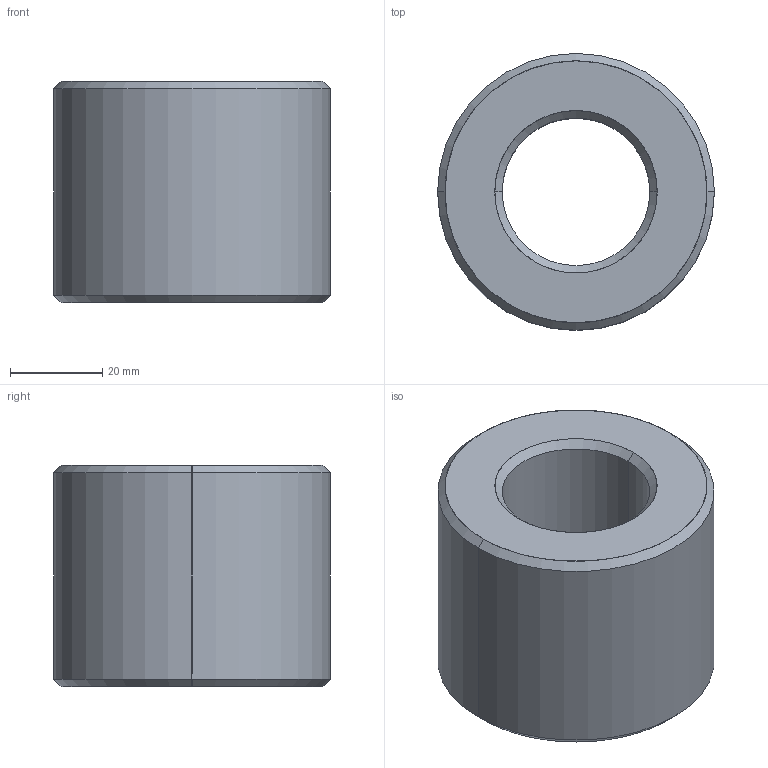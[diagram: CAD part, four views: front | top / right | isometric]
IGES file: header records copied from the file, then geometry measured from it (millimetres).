
Start section: SolidWorks IGES file using analytic representation for surfaces
Global section: file name: C:\Users\ianosborn\Desktop\L1339_v2\L1339_v2_20241024_IGES\L1339.R32-06.igs; native system: SolidWorks 2019; preprocessor: SolidWorks 2019; author: IanOsborn; date: 241024.151140; units: millimetre
Bounding box: 60 x 60 x 48 mm (x, y, z)
Surface area: 17377.9 mm2 (no closed solid volume)
Topology: 0 solids, 0 shells, 14 faces, 304 edges, 304 vertices
Faces by surface type: revolution 12, bspline 2
